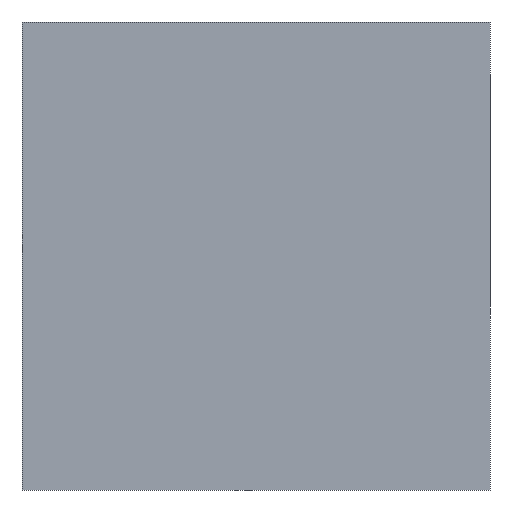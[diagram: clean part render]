
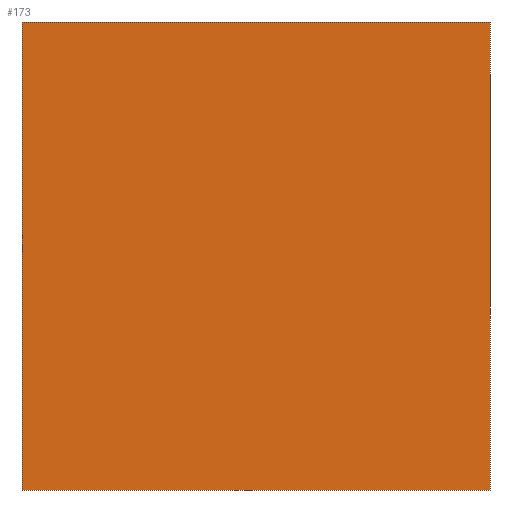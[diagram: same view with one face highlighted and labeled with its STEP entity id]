
A CAD part, front view. The second image highlights one B-rep face of the part: STEP entity #173.
In plain terms, the highlighted planar face has unit normal (0, -1, 0).
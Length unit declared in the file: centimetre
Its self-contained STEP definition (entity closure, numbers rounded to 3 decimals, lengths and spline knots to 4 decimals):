
#13 = EDGE_LOOP ( 'NONE', ( #382, #232, #655, #682 ) ) ;
#51 = VECTOR ( 'NONE', #589, 100. ) ;
#62 = DIRECTION ( 'NONE',  ( 0., 0., 1. ) ) ;
#114 = FACE_OUTER_BOUND ( 'NONE', #13, .T. ) ;
#132 = EDGE_CURVE ( 'NONE', #456, #596, #594, .T. ) ;
#145 = CARTESIAN_POINT ( 'NONE',  ( 1000., 0., 0. ) ) ;
#152 = VERTEX_POINT ( 'NONE', #320 ) ;
#173 = ADVANCED_FACE ( 'NONE', ( #114 ), #467, .F. ) ;
#194 = EDGE_CURVE ( 'NONE', #607, #596, #268, .T. ) ;
#229 = CARTESIAN_POINT ( 'NONE',  ( 0., 0., 1000. ) ) ;
#232 = ORIENTED_EDGE ( 'NONE', *, *, #132, .F. ) ;
#268 = LINE ( 'NONE', #365, #51 ) ;
#280 = CARTESIAN_POINT ( 'NONE',  ( 1000., 0., 1000. ) ) ;
#289 = VECTOR ( 'NONE', #351, 100. ) ;
#320 = CARTESIAN_POINT ( 'NONE',  ( 0., 0., 1000. ) ) ;
#328 = LINE ( 'NONE', #229, #593 ) ;
#347 = CARTESIAN_POINT ( 'NONE',  ( 0., 0., 1000. ) ) ;
#351 = DIRECTION ( 'NONE',  ( 0., 0., -1. ) ) ;
#365 = CARTESIAN_POINT ( 'NONE',  ( 0., 0., 0. ) ) ;
#382 = ORIENTED_EDGE ( 'NONE', *, *, #194, .T. ) ;
#393 = DIRECTION ( 'NONE',  ( 1., 0., 0. ) ) ;
#421 = DIRECTION ( 'NONE',  ( 0., 0., -1. ) ) ;
#425 = CARTESIAN_POINT ( 'NONE',  ( 1000., 0., 1000. ) ) ;
#449 = EDGE_CURVE ( 'NONE', #152, #456, #328, .T. ) ;
#456 = VERTEX_POINT ( 'NONE', #280 ) ;
#457 = LINE ( 'NONE', #347, #289 ) ;
#467 = PLANE ( 'NONE',  #659 ) ;
#471 = DIRECTION ( 'NONE',  ( 0., 1., 0. ) ) ;
#584 = CARTESIAN_POINT ( 'NONE',  ( 0., 0., 0. ) ) ;
#589 = DIRECTION ( 'NONE',  ( 1., 0., 0. ) ) ;
#593 = VECTOR ( 'NONE', #393, 100. ) ;
#594 = LINE ( 'NONE', #425, #595 ) ;
#595 = VECTOR ( 'NONE', #421, 100. ) ;
#596 = VERTEX_POINT ( 'NONE', #145 ) ;
#602 = EDGE_CURVE ( 'NONE', #152, #607, #457, .T. ) ;
#607 = VERTEX_POINT ( 'NONE', #584 ) ;
#645 = CARTESIAN_POINT ( 'NONE',  ( 0., 0., 1000. ) ) ;
#655 = ORIENTED_EDGE ( 'NONE', *, *, #449, .F. ) ;
#659 = AXIS2_PLACEMENT_3D ( 'NONE', #645, #471, #62 ) ;
#682 = ORIENTED_EDGE ( 'NONE', *, *, #602, .T. ) ;
